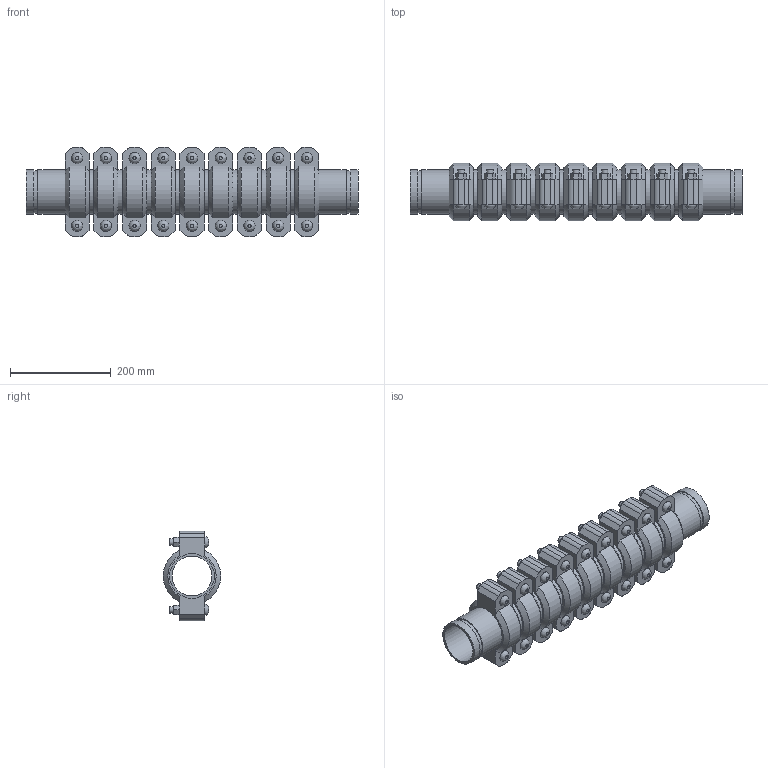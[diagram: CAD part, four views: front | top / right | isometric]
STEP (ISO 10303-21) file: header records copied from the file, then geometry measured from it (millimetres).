
FILE_DESCRIPTION(/* description */ ('VIC SS EXPANSION JOINT 9 COUPLINGS COMPRESSED STYLE 155P (OGS) (POTABLE WATER) ','CAx-IF Rec.Pracs.---Representation and Presentation of Product Manufacturing Information (PMI)---4.0---2014-10-13'),/* implementation_level */ '2;1');
FILE_NAME(/* name */ 'C:\Users\kkamble\AppData\Roaming\Autodesk\ApplicationPlugins\Victaulic.Temp\A693\Victaulic_SS_Expansion Joint_Compressed_9 Couplings_Style 155P (OGS)-Potable Water_9 Coup_Comp_3 (80).stp',/* time_stamp */ '2021-07-16T17:18:33+06:00',/* author */ ('kkamble'),/* organization */ ('Victaulic'),/* preprocessor_version */ 'ST-DEVELOPER v17.2',/* originating_system */ 'Autodesk Inventor 2019',/* authorisation */ '');
FILE_SCHEMA (('AP242_MANAGED_MODEL_BASED_3D_ENGINEERING_MIM_LF { 1 0 10303 442 1 1 4 }'));
Length unit declared in the file: inch
Products named in the file (4): 155P-03.0; Nipple-03.0; Nipple-03.0_1; 075-03.0
Assembly tree (19 placements, depth 2):
  155P-03.0
    Nipple-03.0  x2
    Nipple-03.0_1  x8
    075-03.0  x9
Bounding box: 660.4 x 113.88 x 177.8 mm (x, y, z)
Volume: 3737431.7 mm3; surface area: 928044.3 mm2
Topology: 19 solids, 37 shells, 597 faces, 1443 edges, 1014 vertices
Faces by surface type: plane 366, cylinder 177, cone 36, bspline 18
Full cylindrical faces by diameter (mm): 12.7 x36, 14.605 x18, 79.35 x10, 84.938 x20, 88.9 x39
Entity records: 2753 total; most frequent: CARTESIAN_POINT 489, DIRECTION 463, ORIENTED_EDGE 374, EDGE_CURVE 187, AXIS2_PLACEMENT_3D 186, VERTEX_POINT 134, EDGE_LOOP 101, LINE 91
